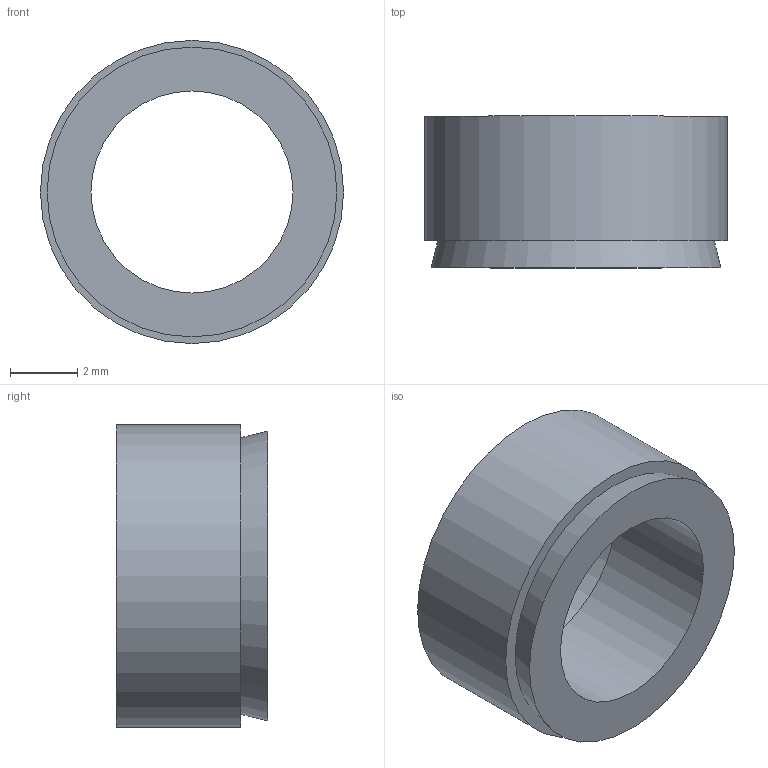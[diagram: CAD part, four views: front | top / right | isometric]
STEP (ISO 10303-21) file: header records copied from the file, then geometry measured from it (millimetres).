
FILE_DESCRIPTION( ( 'Unknown' ), '1' );
FILE_NAME( 'C:/Dokumente und Einstellungen/Sven/Desktop/homepage/cad - homepage/KBS50/KBS 50 - 6 x 9.stp', 'Unknown', ( 'Unknown' ), ( 'Unknown' ), 'XStep 1.0', 'Unknown', ' ' );
FILE_SCHEMA( ( 'automotive_design' ) );
Length unit declared in the file: millimetre
Products named in the file (1): 1
Bounding box: 9 x 4.5 x 9 mm (x, y, z)
Volume: 147.8 mm3; surface area: 293.1 mm2
Topology: 1 solids, 1 shells, 8 faces, 12 edges, 8 vertices
Faces by surface type: plane 4, cylinder 2, cone 2
Full cylindrical faces by diameter (mm): 6 x1, 9 x1
Entity records: 248 total; most frequent: DIRECTION 34, CARTESIAN_POINT 25, AXIS2_PLACEMENT_3D 17, EDGE_LOOP 16, ORIENTED_EDGE 16, FACE_OUTER_BOUND 10, STYLED_ITEM 8, PRESENTATION_STYLE_ASSIGNMENT 8
